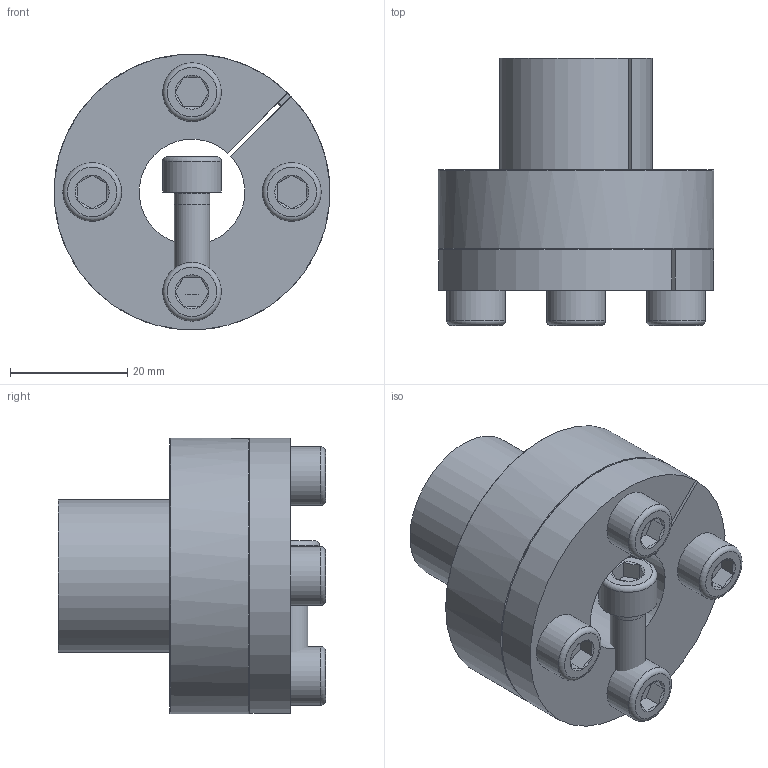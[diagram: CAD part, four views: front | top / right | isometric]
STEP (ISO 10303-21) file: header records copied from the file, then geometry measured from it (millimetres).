
FILE_DESCRIPTION( ( 'Unknown' ), '1' );
FILE_NAME( 'C:/Dokumente und Einstellungen/Sven/Desktop/homepage/cad - homepage/KBS80/KBS 80 - 18 x 26.stp', 'Unknown', ( 'Unknown' ), ( 'Unknown' ), 'XStep 1.0', 'Unknown', ' ' );
FILE_SCHEMA( ( 'automotive_design' ) );
Length unit declared in the file: millimetre
Products named in the file (6): Assem1; KBS 80 - 18 x 26; ISO EN DIN 4762 M6x18; ISO EN DIN 4762 M6x18-oa0; ISO EN DIN 4762 M6x18-oa1; ISO EN DIN 4762 M6x18-oa2
Bounding box: 47 x 45.5 x 47 mm (x, y, z)
Volume: 73205.6 mm3; surface area: 29365 mm2
Topology: 10 solids, 10 shells, 248 faces, 478 edges, 280 vertices
Faces by surface type: plane 112, cone 70, cylinder 50, torus 16
Full cylindrical faces by diameter (mm): 5 x8, 6 x24, 10 x8, 47 x2
Entity records: 3283 total; most frequent: CARTESIAN_POINT 661, DIRECTION 516, ORIENTED_EDGE 386, AXIS2_PLACEMENT_3D 225, EDGE_CURVE 193, EDGE_LOOP 185, FACE_OUTER_BOUND 153, VERTEX_POINT 130
